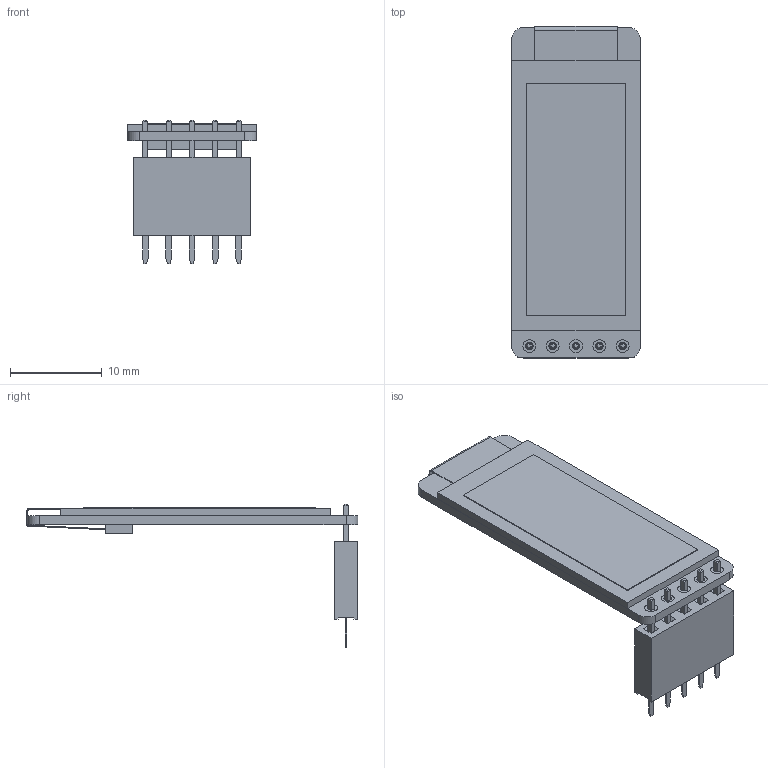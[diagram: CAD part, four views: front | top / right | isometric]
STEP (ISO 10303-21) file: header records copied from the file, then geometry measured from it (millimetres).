
FILE_DESCRIPTION(('Open CASCADE Model'),'2;1');
FILE_NAME('Open CASCADE Shape Model','2026-09-20T16:04:59',('Author'),( 'Open CASCADE'),'Open CASCADE STEP processor 8.0','Open CASCADE 8.0' ,'Unknown');
FILE_SCHEMA(('AP242_MANAGED_MODEL_BASED_3D_ENGINEERING_MIM_LF {1 0 10303 442 1 1 4 }' ));
Length unit declared in the file: millimetre
Products named in the file (21): Open CASCADE STEP translator 8.0 76; Open CASCADE STEP translator 8.0 76.1; Open CASCADE STEP translator 8.0 76.1.1; Open CASCADE STEP translator 8.0 76.1.2; Open CASCADE STEP translator 8.0 76.1.3; Open CASCADE STEP translator 8.0 76.1.4; Open CASCADE STEP translator 8.0 76.1.5; Open CASCADE STEP translator 8.0 76.2; Open CASCADE STEP translator 8.0 76.3; Open CASCADE STEP translator 8.0 76.3.1; Open CASCADE STEP translator 8.0 76.3.2; Open CASCADE STEP translator 8.0 76.3.2.1; Open CASCADE STEP translator 8.0 76.3.2.2; Open CASCADE STEP translator 8.0 76.3.2.3; Open CASCADE STEP translator 8.0 76.3.2.4; Open CASCADE STEP translator 8.0 76.3.2.5; Open CASCADE STEP translator 8.0 76.3.2.6; Open CASCADE STEP translator 8.0 76.3.2.7; Open CASCADE STEP translator 8.0 76.3.2.8; Open CASCADE STEP translator 8.0 76.3.2.9; Open CASCADE STEP translator 8.0 76.3.2.10
Assembly tree (20 placements, depth 4):
  Open CASCADE STEP translator 8.0 76
    Open CASCADE STEP translator 8.0 76.1
      Open CASCADE STEP translator 8.0 76.1.1
      Open CASCADE STEP translator 8.0 76.1.2
      Open CASCADE STEP translator 8.0 76.1.3
      Open CASCADE STEP translator 8.0 76.1.4
      Open CASCADE STEP translator 8.0 76.1.5
    Open CASCADE STEP translator 8.0 76.2
    Open CASCADE STEP translator 8.0 76.3
      Open CASCADE STEP translator 8.0 76.3.1
      Open CASCADE STEP translator 8.0 76.3.2
        Open CASCADE STEP translator 8.0 76.3.2.1
        Open CASCADE STEP translator 8.0 76.3.2.2
        Open CASCADE STEP translator 8.0 76.3.2.3
        Open CASCADE STEP translator 8.0 76.3.2.4
        Open CASCADE STEP translator 8.0 76.3.2.5
        Open CASCADE STEP translator 8.0 76.3.2.6
        Open CASCADE STEP translator 8.0 76.3.2.7
        Open CASCADE STEP translator 8.0 76.3.2.8
        Open CASCADE STEP translator 8.0 76.3.2.9
        Open CASCADE STEP translator 8.0 76.3.2.10
Bounding box: 14 x 36.14 x 15.63 mm (x, y, z)
Volume: 1176.6 mm3; surface area: 3507.4 mm2
Topology: 16 solids, 16 shells, 347 faces, 785 edges, 490 vertices
Faces by surface type: plane 324, cylinder 23
Full cylindrical faces by diameter (mm): 0.813 x5, 1.397 x10
Entity records: 20027 total; most frequent: CARTESIAN_POINT 3327, DIRECTION 3118, LINE 2263, VECTOR 2263, ORIENTED_EDGE 1570, PCURVE 1570, DEFINITIONAL_REPRESENTATION 1570, EDGE_CURVE 785
